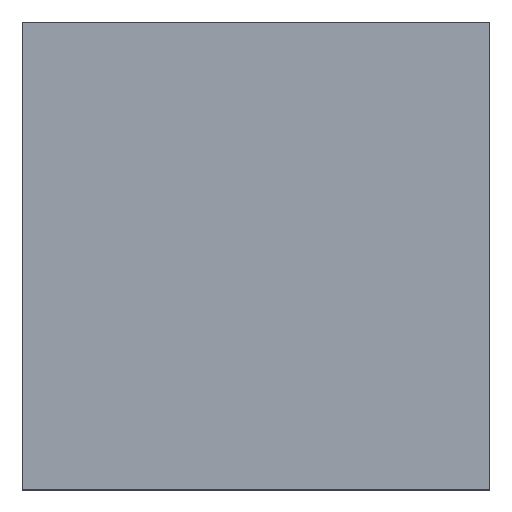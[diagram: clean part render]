
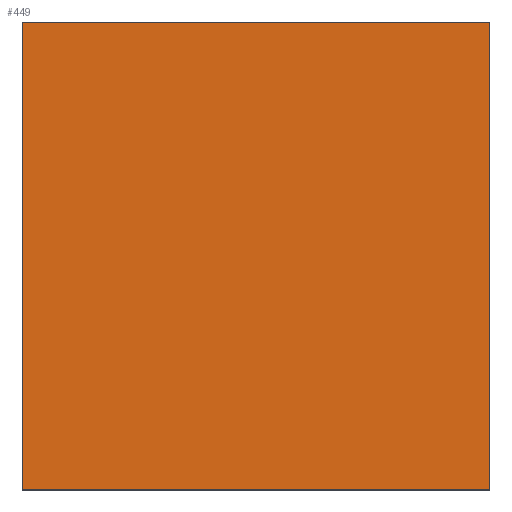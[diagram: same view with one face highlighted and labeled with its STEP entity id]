
A CAD part, top view. The second image highlights one B-rep face of the part: STEP entity #449.
In plain terms, the highlighted planar face has unit normal (0, 0, 1).
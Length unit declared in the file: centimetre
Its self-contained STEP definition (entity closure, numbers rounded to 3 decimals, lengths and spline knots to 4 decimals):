
#31 = VECTOR ( 'NONE', #282, 100. ) ;
#78 = ORIENTED_EDGE ( 'NONE', *, *, #471, .T. ) ;
#119 = DIRECTION ( 'NONE',  ( 1., 0., 0. ) ) ;
#127 = VECTOR ( 'NONE', #221, 100. ) ;
#154 = DIRECTION ( 'NONE',  ( 0., 1., 0. ) ) ;
#159 = VERTEX_POINT ( 'NONE', #269 ) ;
#173 = LINE ( 'NONE', #556, #229 ) ;
#221 = DIRECTION ( 'NONE',  ( 0., -1., 0. ) ) ;
#229 = VECTOR ( 'NONE', #553, 100. ) ;
#232 = ORIENTED_EDGE ( 'NONE', *, *, #543, .T. ) ;
#264 = LINE ( 'NONE', #563, #127 ) ;
#269 = CARTESIAN_POINT ( 'NONE',  ( 0., 0., 1000. ) ) ;
#282 = DIRECTION ( 'NONE',  ( 1., 0., 0. ) ) ;
#284 = EDGE_CURVE ( 'NONE', #624, #475, #447, .T. ) ;
#294 = VERTEX_POINT ( 'NONE', #602 ) ;
#301 = ORIENTED_EDGE ( 'NONE', *, *, #284, .T. ) ;
#305 = DIRECTION ( 'NONE',  ( 0., 0., 1. ) ) ;
#378 = EDGE_CURVE ( 'NONE', #475, #294, #173, .T. ) ;
#389 = CARTESIAN_POINT ( 'NONE',  ( 1000., 1000., 1000. ) ) ;
#403 = VECTOR ( 'NONE', #154, 100. ) ;
#416 = CARTESIAN_POINT ( 'NONE',  ( 0., 0., 1000. ) ) ;
#447 = LINE ( 'NONE', #389, #403 ) ;
#449 = ADVANCED_FACE ( 'NONE', ( #466 ), #506, .T. ) ;
#459 = CARTESIAN_POINT ( 'NONE',  ( 1000., 1000., 1000. ) ) ;
#466 = FACE_OUTER_BOUND ( 'NONE', #591, .T. ) ;
#471 = EDGE_CURVE ( 'NONE', #294, #159, #264, .T. ) ;
#474 = CARTESIAN_POINT ( 'NONE',  ( 0., 0., 1000. ) ) ;
#475 = VERTEX_POINT ( 'NONE', #459 ) ;
#506 = PLANE ( 'NONE',  #632 ) ;
#507 = ORIENTED_EDGE ( 'NONE', *, *, #378, .T. ) ;
#523 = LINE ( 'NONE', #474, #31 ) ;
#542 = CARTESIAN_POINT ( 'NONE',  ( 1000., 0., 1000. ) ) ;
#543 = EDGE_CURVE ( 'NONE', #159, #624, #523, .T. ) ;
#553 = DIRECTION ( 'NONE',  ( -1., 0., 0. ) ) ;
#556 = CARTESIAN_POINT ( 'NONE',  ( 0., 1000., 1000. ) ) ;
#563 = CARTESIAN_POINT ( 'NONE',  ( 0., 1000., 1000. ) ) ;
#591 = EDGE_LOOP ( 'NONE', ( #78, #232, #301, #507 ) ) ;
#602 = CARTESIAN_POINT ( 'NONE',  ( 0., 1000., 1000. ) ) ;
#624 = VERTEX_POINT ( 'NONE', #542 ) ;
#632 = AXIS2_PLACEMENT_3D ( 'NONE', #416, #305, #119 ) ;
